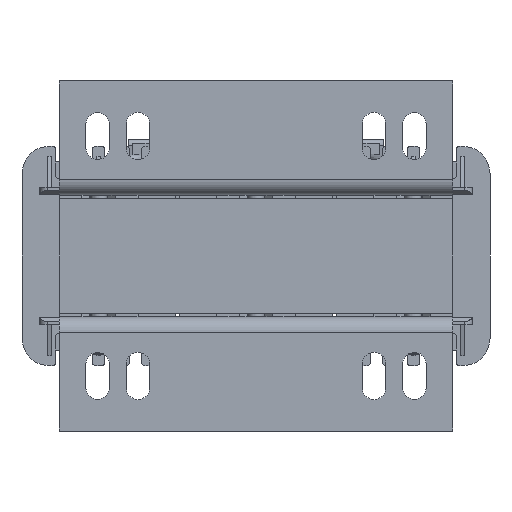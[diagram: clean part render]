
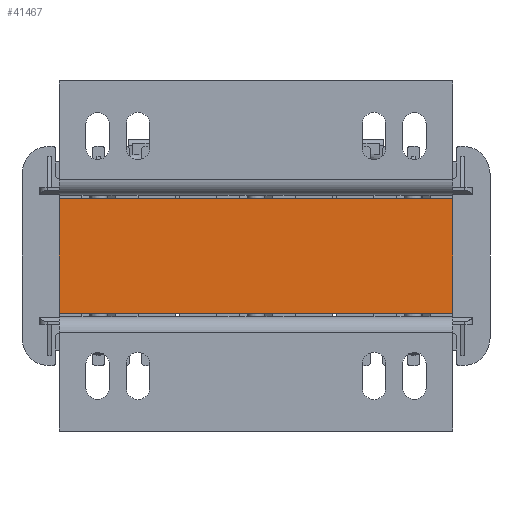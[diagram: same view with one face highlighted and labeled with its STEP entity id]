
A CAD part, front view. The second image highlights one B-rep face of the part: STEP entity #41467.
In plain terms, the highlighted planar face has unit normal (0, -1, 0).
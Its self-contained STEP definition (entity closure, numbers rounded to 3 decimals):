
#8659=DIRECTION('',(-1.,0.,0.));
#8660=VECTOR('',#8659,100.);
#8661=CARTESIAN_POINT('',(50.,-10.,14.5));
#8662=LINE('',#8661,#8660);
#9341=DIRECTION('',(0.,0.,1.));
#9342=VECTOR('',#9341,29.);
#9343=CARTESIAN_POINT('',(-50.,-10.,-14.5));
#9344=LINE('',#9343,#9342);
#11504=DIRECTION('',(0.,0.,1.));
#11505=VECTOR('',#11504,29.);
#11506=CARTESIAN_POINT('',(50.,-10.,-14.5));
#11507=LINE('',#11506,#11505);
#11717=DIRECTION('',(-1.,0.,0.));
#11718=VECTOR('',#11717,100.);
#11719=CARTESIAN_POINT('',(50.,-10.,-14.5));
#11720=LINE('',#11719,#11718);
#20795=CARTESIAN_POINT('',(50.,-10.,-14.5));
#20796=CARTESIAN_POINT('',(-50.,-10.,-14.5));
#20797=VERTEX_POINT('',#20795);
#20798=VERTEX_POINT('',#20796);
#20803=CARTESIAN_POINT('',(50.,-10.,14.5));
#20804=CARTESIAN_POINT('',(-50.,-10.,14.5));
#20805=VERTEX_POINT('',#20803);
#20806=VERTEX_POINT('',#20804);
#41455=CARTESIAN_POINT('',(50.,-10.,-14.5));
#41456=DIRECTION('',(0.,-1.,0.));
#41457=DIRECTION('',(-1.,0.,0.));
#41458=AXIS2_PLACEMENT_3D('',#41455,#41456,#41457);
#41459=PLANE('',#41458);
#41461=ORIENTED_EDGE('',*,*,#41460,.T.);
#41462=ORIENTED_EDGE('',*,*,#38664,.T.);
#41463=ORIENTED_EDGE('',*,*,#37959,.F.);
#41464=ORIENTED_EDGE('',*,*,#38151,.F.);
#41465=EDGE_LOOP('',(#41461,#41462,#41463,#41464));
#41466=FACE_OUTER_BOUND('',#41465,.F.);
#37959=EDGE_CURVE('',#20805,#20806,#8662,.T.);
#38151=EDGE_CURVE('',#20797,#20805,#11507,.T.);
#38664=EDGE_CURVE('',#20798,#20806,#9344,.T.);
#41460=EDGE_CURVE('',#20797,#20798,#11720,.T.);
#41467=ADVANCED_FACE('',(#41466),#41459,.T.);
